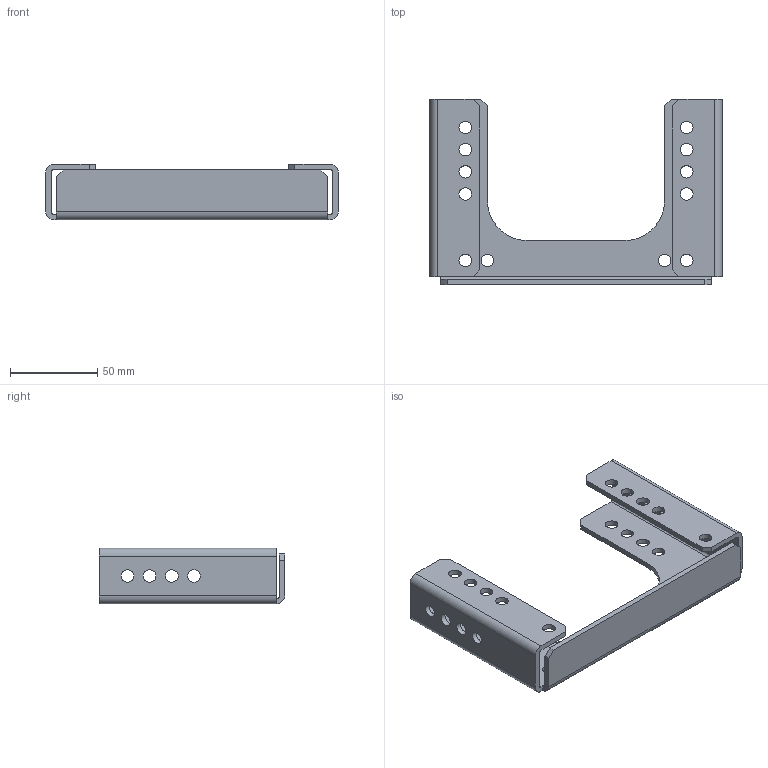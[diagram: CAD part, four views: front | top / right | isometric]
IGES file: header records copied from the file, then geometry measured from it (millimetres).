
Global section: file name: No Iges File Name specified; native system: AutoDesk Inventor R5.0; preprocessor: AutoDesk Inventor Iges Exporter R5.0; author: No Author specified; organization: No Organization specified; date: 20070111.213810; units: inch
Bounding box: 167.56 x 106.32 x 31.9 mm (x, y, z)
Surface area: 50425.1 mm2 (no closed solid volume)
Topology: 0 solids, 0 shells, 74 faces, 418 edges, 388 vertices
Faces by surface type: plane 32, revolution 23, bspline 19
